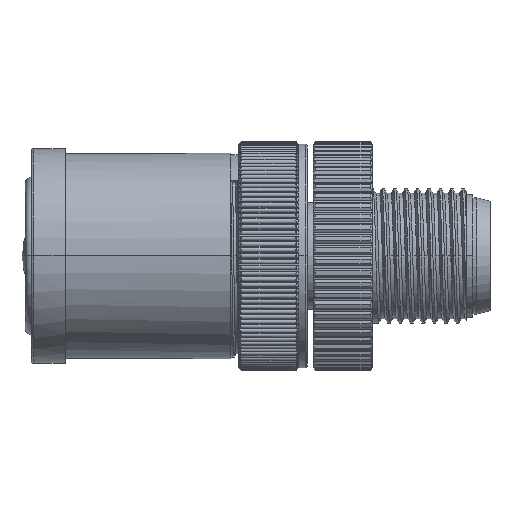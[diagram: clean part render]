
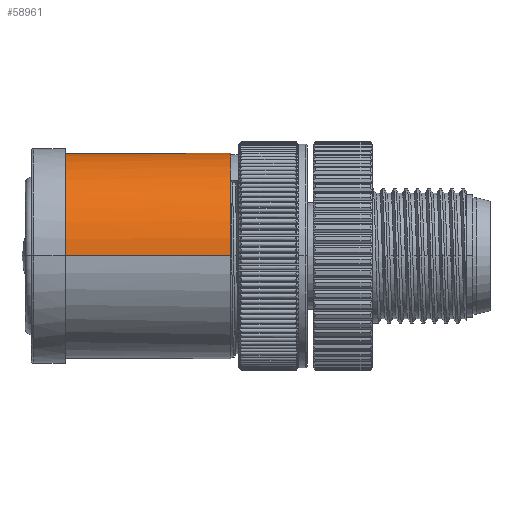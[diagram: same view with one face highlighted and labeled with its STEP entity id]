
A CAD part, top view. The second image highlights one B-rep face of the part: STEP entity #58961.
In plain terms, the highlighted cylindrical face has radius 9 mm (diameter 18 mm), a partial arc.
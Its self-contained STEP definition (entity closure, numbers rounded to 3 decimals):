
#18284=CARTESIAN_POINT('',(8.,0.,28.637));
#18285=DIRECTION('',(1.,0.,0.));
#18286=DIRECTION('',(0.,0.,-1.));
#18287=AXIS2_PLACEMENT_3D('',#18284,#18285,#18286);
#18313=DIRECTION('',(1.,0.,0.));
#18314=VECTOR('',#18313,0.5);
#18315=CARTESIAN_POINT('',(7.5,0.,19.637));
#18316=LINE('',#18315,#18314);
#18317=DIRECTION('',(1.,0.,0.));
#18318=VECTOR('',#18317,14.5);
#18319=CARTESIAN_POINT('',(-6.5,0.,37.637));
#18320=LINE('',#18319,#18318);
#18321=DIRECTION('',(-1.,0.,0.));
#18322=VECTOR('',#18321,6.475);
#18323=CARTESIAN_POINT('',(-0.025,7.5,
23.662));
#18324=LINE('',#18323,#18322);
#18416=CARTESIAN_POINT('',(7.5,0.,19.637));
#18417=CARTESIAN_POINT('',(7.5,0.048,
19.637));
#18418=CARTESIAN_POINT('',(7.499,0.144,
19.638));
#18419=CARTESIAN_POINT('',(7.495,0.289,
19.642));
#18420=CARTESIAN_POINT('',(7.488,0.433,
19.647));
#18421=CARTESIAN_POINT('',(7.478,0.578,
19.656));
#18422=CARTESIAN_POINT('',(7.466,0.722,
19.666));
#18423=CARTESIAN_POINT('',(7.45,0.866,
19.679));
#18424=CARTESIAN_POINT('',(7.432,1.011,19.694));
#18425=CARTESIAN_POINT('',(7.411,1.155,19.711));
#18426=CARTESIAN_POINT('',(7.387,1.3,19.731));
#18427=CARTESIAN_POINT('',(7.36,1.445,19.754));
#18428=CARTESIAN_POINT('',(7.33,1.589,19.778));
#18429=CARTESIAN_POINT('',(7.297,1.734,19.806));
#18430=CARTESIAN_POINT('',(7.261,1.879,19.835));
#18431=CARTESIAN_POINT('',(7.222,2.024,19.867));
#18432=CARTESIAN_POINT('',(7.18,2.168,19.902));
#18433=CARTESIAN_POINT('',(7.135,2.313,19.939));
#18434=CARTESIAN_POINT('',(7.086,2.458,19.979));
#18435=CARTESIAN_POINT('',(7.034,2.603,20.021));
#18436=CARTESIAN_POINT('',(6.979,2.747,20.067));
#18437=CARTESIAN_POINT('',(6.921,2.892,20.114));
#18438=CARTESIAN_POINT('',(6.859,3.036,20.165));
#18439=CARTESIAN_POINT('',(6.793,3.181,20.218));
#18440=CARTESIAN_POINT('',(6.724,3.324,20.273));
#18441=CARTESIAN_POINT('',(6.651,3.468,20.332));
#18442=CARTESIAN_POINT('',(6.574,3.611,20.393));
#18443=CARTESIAN_POINT('',(6.493,3.754,20.457));
#18444=CARTESIAN_POINT('',(6.409,3.897,20.524));
#18445=CARTESIAN_POINT('',(6.321,4.038,20.594));
#18446=CARTESIAN_POINT('',(6.228,4.18,20.666));
#18447=CARTESIAN_POINT('',(6.132,4.32,20.741));
#18448=CARTESIAN_POINT('',(6.031,4.459,20.819));
#18449=CARTESIAN_POINT('',(5.926,4.598,20.9));
#18450=CARTESIAN_POINT('',(5.817,4.735,20.983));
#18451=CARTESIAN_POINT('',(5.704,4.871,21.069));
#18452=CARTESIAN_POINT('',(5.587,5.005,21.157));
#18453=CARTESIAN_POINT('',(5.465,5.138,21.247));
#18454=CARTESIAN_POINT('',(5.339,5.268,21.34));
#18455=CARTESIAN_POINT('',(5.209,5.397,21.434));
#18456=CARTESIAN_POINT('',(5.075,5.523,21.531));
#18457=CARTESIAN_POINT('',(4.937,5.647,21.629));
#18458=CARTESIAN_POINT('',(4.795,5.768,21.728));
#18459=CARTESIAN_POINT('',(4.65,5.885,21.828));
#18460=CARTESIAN_POINT('',(4.502,6.,21.928));
#18461=CARTESIAN_POINT('',(4.35,6.11,22.029));
#18462=CARTESIAN_POINT('',(4.197,6.217,22.129));
#18463=CARTESIAN_POINT('',(4.041,6.319,22.229));
#18464=CARTESIAN_POINT('',(3.884,6.417,22.326));
#18465=CARTESIAN_POINT('',(3.725,6.51,22.423));
#18466=CARTESIAN_POINT('',(3.567,6.598,22.516));
#18467=CARTESIAN_POINT('',(3.409,6.681,22.607));
#18468=CARTESIAN_POINT('',(3.251,6.76,22.695));
#18469=CARTESIAN_POINT('',(3.095,6.832,22.779));
#18470=CARTESIAN_POINT('',(2.94,6.9,22.859));
#18471=CARTESIAN_POINT('',(2.787,6.963,22.935));
#18472=CARTESIAN_POINT('',(2.637,7.022,23.007));
#18473=CARTESIAN_POINT('',(2.489,7.075,23.075));
#18474=CARTESIAN_POINT('',(2.344,7.125,23.138));
#18475=CARTESIAN_POINT('',(2.202,7.17,23.197));
#18476=CARTESIAN_POINT('',(2.063,7.211,23.252));
#18477=CARTESIAN_POINT('',(1.926,7.249,23.303));
#18478=CARTESIAN_POINT('',(1.792,7.283,23.35));
#18479=CARTESIAN_POINT('',(1.66,7.314,23.393));
#18480=CARTESIAN_POINT('',(1.531,7.342,23.433));
#18481=CARTESIAN_POINT('',(1.405,7.368,23.468));
#18482=CARTESIAN_POINT('',(1.28,7.39,23.501));
#18483=CARTESIAN_POINT('',(1.157,7.41,23.53));
#18484=CARTESIAN_POINT('',(1.037,7.428,23.556));
#18485=CARTESIAN_POINT('',(0.917,7.444,
23.579));
#18486=CARTESIAN_POINT('',(0.8,7.458,
23.599));
#18487=CARTESIAN_POINT('',(0.683,7.469,
23.616));
#18488=CARTESIAN_POINT('',(0.568,7.479,
23.631));
#18489=CARTESIAN_POINT('',(0.453,7.487,
23.642));
#18490=CARTESIAN_POINT('',(0.339,7.493,
23.651));
#18491=CARTESIAN_POINT('',(0.226,7.497,
23.658));
#18492=CARTESIAN_POINT('',(0.113,7.499,
23.662));
#18493=CARTESIAN_POINT('',(0.038,7.5,
23.662));
#18494=CARTESIAN_POINT('',(0.,7.5,
23.662));
#18505=CARTESIAN_POINT('',(0.,7.5,
23.662));
#18506=CARTESIAN_POINT('',(-0.004,7.5,
23.662));
#18507=CARTESIAN_POINT('',(-0.012,7.5,
23.662));
#18508=CARTESIAN_POINT('',(-0.021,7.5,
23.662));
#18509=CARTESIAN_POINT('',(-0.025,7.5,
23.662));
#18534=CARTESIAN_POINT('',(-6.5,0.,28.637));
#18535=DIRECTION('',(-1.,0.,0.));
#18536=DIRECTION('',(0.,0.,1.));
#18537=AXIS2_PLACEMENT_3D('',#18534,#18535,#18536);
#45266=CARTESIAN_POINT('',(-6.5,7.5,23.662));
#45268=VERTEX_POINT('',#45266);
#45279=CARTESIAN_POINT('',(0.,7.5,
23.662));
#45281=VERTEX_POINT('',#45279);
#45595=CARTESIAN_POINT('',(7.5,0.,19.637));
#45597=VERTEX_POINT('',#45595);
#45602=CARTESIAN_POINT('',(-6.5,0.,37.637));
#45603=CARTESIAN_POINT('',(8.,0.,37.637));
#45604=VERTEX_POINT('',#45602);
#45605=VERTEX_POINT('',#45603);
#45606=CARTESIAN_POINT('',(8.,0.,19.637));
#45607=VERTEX_POINT('',#45606);
#45610=CARTESIAN_POINT('',(-0.025,7.5,
23.662));
#45611=VERTEX_POINT('',#45610);
#58941=CARTESIAN_POINT('',(-9.5,0.,28.637));
#58942=DIRECTION('',(1.,0.,0.));
#58943=DIRECTION('',(0.,0.,1.));
#58944=AXIS2_PLACEMENT_3D('',#58941,#58942,#58943);
#58945=CYLINDRICAL_SURFACE('',#58944,9.);
#58947=ORIENTED_EDGE('',*,*,#58946,.F.);
#58949=ORIENTED_EDGE('',*,*,#58948,.T.);
#58950=ORIENTED_EDGE('',*,*,#58922,.T.);
#58952=ORIENTED_EDGE('',*,*,#58951,.F.);
#58954=ORIENTED_EDGE('',*,*,#58953,.T.);
#58956=ORIENTED_EDGE('',*,*,#58955,.F.);
#58958=ORIENTED_EDGE('',*,*,#58957,.F.);
#58959=EDGE_LOOP('',(#58947,#58949,#58950,#58952,#58954,#58956,#58958));
#58960=FACE_OUTER_BOUND('',#58959,.F.);
#58961=ADVANCED_FACE('',(#58960),#58945,.T.);
#18288=CIRCLE('',#18287,9.);
#18495=B_SPLINE_CURVE_WITH_KNOTS('',3,(#18416,#18417,#18418,#18419,#18420,
#18421,#18422,#18423,#18424,#18425,#18426,#18427,#18428,#18429,#18430,#18431,
#18432,#18433,#18434,#18435,#18436,#18437,#18438,#18439,#18440,#18441,#18442,
#18443,#18444,#18445,#18446,#18447,#18448,#18449,#18450,#18451,#18452,#18453,
#18454,#18455,#18456,#18457,#18458,#18459,#18460,#18461,#18462,#18463,#18464,
#18465,#18466,#18467,#18468,#18469,#18470,#18471,#18472,#18473,#18474,#18475,
#18476,#18477,#18478,#18479,#18480,#18481,#18482,#18483,#18484,#18485,#18486,
#18487,#18488,#18489,#18490,#18491,#18492,#18493,#18494),.UNSPECIFIED.,.F.,.F.,(
4,1,1,1,1,1,1,1,1,1,1,1,1,1,1,1,1,1,1,1,1,1,1,1,1,1,1,1,1,1,1,1,1,1,1,1,1,1,1,1,
1,1,1,1,1,1,1,1,1,1,1,1,1,1,1,1,1,1,1,1,1,1,1,1,1,1,1,1,1,1,1,1,1,1,1,1,4),
(0.,0.013,0.026,0.039,0.053,
0.066,0.079,0.092,0.105,
0.118,0.132,0.145,0.158,
0.171,0.184,0.197,0.211,
0.224,0.237,0.25,0.263,0.276,
0.289,0.303,0.316,0.329,
0.342,0.355,0.368,0.382,
0.395,0.408,0.421,0.434,
0.447,0.461,0.474,0.487,0.5,
0.513,0.526,0.539,0.553,
0.566,0.579,0.592,0.605,
0.618,0.632,0.645,0.658,
0.671,0.684,0.697,0.711,
0.724,0.737,0.75,0.763,0.776,
0.789,0.803,0.816,0.829,
0.842,0.855,0.868,0.882,
0.895,0.908,0.921,0.934,
0.947,0.961,0.974,0.987,1.),
.UNSPECIFIED.);
#18510=B_SPLINE_CURVE_WITH_KNOTS('',3,(#18505,#18506,#18507,#18508,#18509),
.UNSPECIFIED.,.F.,.F.,(4,1,4),(0.,0.5,1.),.UNSPECIFIED.);
#18538=CIRCLE('',#18537,9.);
#58922=EDGE_CURVE('',#45607,#45605,#18288,.T.);
#58946=EDGE_CURVE('',#45597,#45281,#18495,.T.);
#58948=EDGE_CURVE('',#45597,#45607,#18316,.T.);
#58951=EDGE_CURVE('',#45604,#45605,#18320,.T.);
#58953=EDGE_CURVE('',#45604,#45268,#18538,.T.);
#58955=EDGE_CURVE('',#45611,#45268,#18324,.T.);
#58957=EDGE_CURVE('',#45281,#45611,#18510,.T.);
